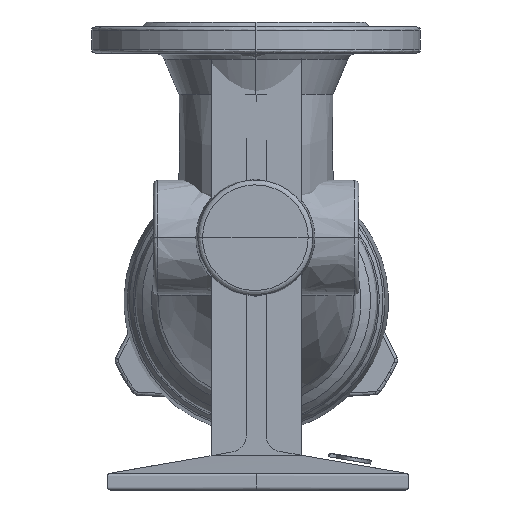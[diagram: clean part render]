
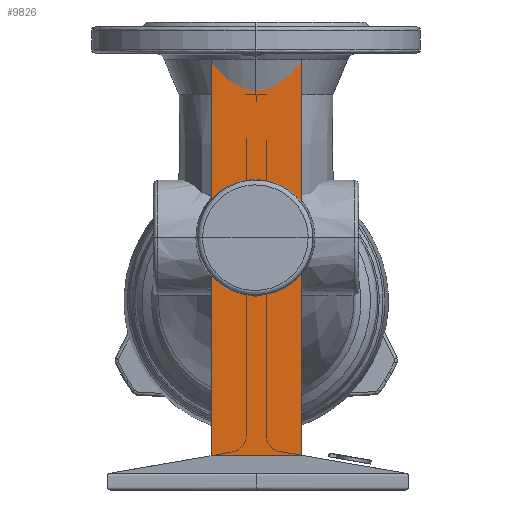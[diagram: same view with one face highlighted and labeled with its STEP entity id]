
A CAD part, left-side view. The second image highlights one B-rep face of the part: STEP entity #9826.
In plain terms, the highlighted free-form (B-spline) face has degree [1, 1] with [2, 2] control points.
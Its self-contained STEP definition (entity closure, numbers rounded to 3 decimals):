
#51 = CARTESIAN_POINT ( 'NONE',  ( -47.397, 5.579, 262.672 ) ) ;
#149 = CARTESIAN_POINT ( 'NONE',  ( -47.397, 5.704, 262.768 ) ) ;
#177 = CARTESIAN_POINT ( 'NONE',  ( -47.397, 0.616, 260.593 ) ) ;
#247 = CARTESIAN_POINT ( 'NONE',  ( -47.397, 4.547, 261.96 ) ) ;
#255 = EDGE_CURVE ( 'NONE', #18292, #8433, #14288, .T. ) ;
#560 = CARTESIAN_POINT ( 'NONE',  ( -47.397, 1.627, 260.747 ) ) ;
#603 = CARTESIAN_POINT ( 'NONE',  ( -47.397, 27.541, 20.832 ) ) ;
#679 = CARTESIAN_POINT ( 'NONE',  ( -47.397, -3.555, 261.557 ) ) ;
#718 = ORIENTED_EDGE ( 'NONE', *, *, #8840, .T. ) ;
#868 = CARTESIAN_POINT ( 'NONE',  ( -47.397, -4.874, 262.365 ) ) ;
#1062 = B_SPLINE_CURVE_WITH_KNOTS ( 'NONE', 3,
 ( #11325, #7590, #177, #4833, #560, #14630, #13588, #1898 ),
 .UNSPECIFIED., .F., .F.,
 ( 4, 2, 2, 4 ),
 ( -3.075, -1.537, -0.769, 0. ),
 .UNSPECIFIED. ) ;
#1437 = CARTESIAN_POINT ( 'NONE',  ( -47.397, 27.541, 20.832 ) ) ;
#1717 = VERTEX_POINT ( 'NONE', #9594 ) ;
#1898 = CARTESIAN_POINT ( 'NONE',  ( -47.397, 2.609, 261.025 ) ) ;
#1927 = CARTESIAN_POINT ( 'NONE',  ( -47.397, -2.699, 261.153 ) ) ;
#2022 = CARTESIAN_POINT ( 'NONE',  ( -47.397, -3.969, 261.784 ) ) ;
#2324 = CARTESIAN_POINT ( 'NONE',  ( -47.397, -27.418, 262.864 ) ) ;
#2511 = B_SPLINE_CURVE_WITH_KNOTS ( 'NONE', 1,
 ( #4136, #18578 ),
 .UNSPECIFIED., .F., .F.,
 ( 2, 2 ),
 ( 5.808, 36.36 ),
 .UNSPECIFIED. ) ;
#2774 = B_SPLINE_CURVE_WITH_KNOTS ( 'NONE', 3,
 ( #3736, #15238, #10774, #868, #16569, #12113, #17898, #6674, #2022, #679, #16666, #1927, #8007, #12488, #7910, #6485 ),
 .UNSPECIFIED., .F., .F.,
 ( 4, 2, 2, 2, 2, 2, 2, 4 ),
 ( -5.641, -4.936, -4.583, -4.231, -3.526, -2.82, -1.41, 0. ),
 .UNSPECIFIED. ) ;
#2822 = CARTESIAN_POINT ( 'NONE',  ( -47.397, 2.898, 261.126 ) ) ;
#2870 = EDGE_CURVE ( 'NONE', #8091, #16763, #15230, .T. ) ;
#3011 = CARTESIAN_POINT ( 'NONE',  ( -47.397, 4.945, 262.218 ) ) ;
#3736 = CARTESIAN_POINT ( 'NONE',  ( -47.397, -5.54, 262.864 ) ) ;
#4136 = CARTESIAN_POINT ( 'NONE',  ( -47.397, -27.418, 20.832 ) ) ;
#4149 = CARTESIAN_POINT ( 'NONE',  ( -47.397, 27.541, 262.864 ) ) ;
#4247 = CARTESIAN_POINT ( 'NONE',  ( -47.397, 5.326, 262.484 ) ) ;
#4260 = B_SPLINE_CURVE_WITH_KNOTS ( 'NONE', 1,
 ( #14232, #4149 ),
 .UNSPECIFIED., .F., .F.,
 ( 2, 2 ),
 ( -10.468, 0. ),
 .UNSPECIFIED. ) ;
#4375 = CARTESIAN_POINT ( 'NONE',  ( -47.397, 27.541, 262.864 ) ) ;
#4833 = CARTESIAN_POINT ( 'NONE',  ( -47.397, 1.377, 260.698 ) ) ;
#5098 = CARTESIAN_POINT ( 'NONE',  ( -47.397, 27.541, 20.832 ) ) ;
#5278 = CARTESIAN_POINT ( 'NONE',  ( -47.397, -27.418, 262.864 ) ) ;
#5364 = CARTESIAN_POINT ( 'NONE',  ( -47.397, -5.54, 262.864 ) ) ;
#5846 = CARTESIAN_POINT ( 'NONE',  ( -47.397, 5.824, 262.864 ) ) ;
#6274 = CARTESIAN_POINT ( 'NONE',  ( -47.397, 27.541, 20.832 ) ) ;
#6485 = CARTESIAN_POINT ( 'NONE',  ( -47.397, -0.41, 260.618 ) ) ;
#6674 = CARTESIAN_POINT ( 'NONE',  ( -47.397, -4.171, 261.903 ) ) ;
#6903 = VERTEX_POINT ( 'NONE', #12689 ) ;
#7144 = CARTESIAN_POINT ( 'NONE',  ( -47.397, 27.541, 262.864 ) ) ;
#7590 = CARTESIAN_POINT ( 'NONE',  ( -47.397, 0.101, 260.578 ) ) ;
#7910 = CARTESIAN_POINT ( 'NONE',  ( -47.397, -0.878, 260.655 ) ) ;
#8007 = CARTESIAN_POINT ( 'NONE',  ( -47.397, -2.256, 260.988 ) ) ;
#8091 = VERTEX_POINT ( 'NONE', #4375 ) ;
#8115 = ORIENTED_EDGE ( 'NONE', *, *, #2870, .T. ) ;
#8121 = FACE_OUTER_BOUND ( 'NONE', #15586, .T. ) ;
#8433 = VERTEX_POINT ( 'NONE', #8727 ) ;
#8684 = ORIENTED_EDGE ( 'NONE', *, *, #9196, .T. ) ;
#8708 = EDGE_CURVE ( 'NONE', #8433, #8091, #4260, .T. ) ;
#8727 = CARTESIAN_POINT ( 'NONE',  ( -47.397, 5.824, 262.864 ) ) ;
#8777 = ORIENTED_EDGE ( 'NONE', *, *, #255, .T. ) ;
#8811 = ORIENTED_EDGE ( 'NONE', *, *, #10860, .T. ) ;
#8840 = EDGE_CURVE ( 'NONE', #9182, #6903, #14003, .T. ) ;
#9182 = VERTEX_POINT ( 'NONE', #16057 ) ;
#9196 = EDGE_CURVE ( 'NONE', #1717, #18292, #1062, .T. ) ;
#9422 = ORIENTED_EDGE ( 'NONE', *, *, #11702, .F. ) ;
#9488 = CARTESIAN_POINT ( 'NONE',  ( -47.397, -27.418, 20.832 ) ) ;
#9564 = CARTESIAN_POINT ( 'NONE',  ( -47.397, -27.418, 20.832 ) ) ;
#9594 = CARTESIAN_POINT ( 'NONE',  ( -47.397, -0.41, 260.618 ) ) ;
#9826 = ADVANCED_FACE ( 'NONE', ( #8121 ), #10289, .T. ) ;
#10140 = CARTESIAN_POINT ( 'NONE',  ( -47.397, 3.185, 261.243 ) ) ;
#10289 = B_SPLINE_SURFACE_WITH_KNOTS ( 'NONE', 1, 1, ( 
 ( #603, #15065 ),
 ( #9564, #2324 ) ),
 .UNSPECIFIED., .F., .F., .F.,
 ( 2, 2 ),
 ( 2, 2 ),
 ( 0., 26.492 ),
 ( 5.808, 36.36 ),
 .UNSPECIFIED. ) ;
#10587 = ORIENTED_EDGE ( 'NONE', *, *, #11887, .T. ) ;
#10681 = VERTEX_POINT ( 'NONE', #15714 ) ;
#10774 = CARTESIAN_POINT ( 'NONE',  ( -47.397, -5.165, 262.573 ) ) ;
#10860 = EDGE_CURVE ( 'NONE', #6903, #1717, #2774, .T. ) ;
#11325 = CARTESIAN_POINT ( 'NONE',  ( -47.397, -0.41, 260.618 ) ) ;
#11330 = B_SPLINE_CURVE_WITH_KNOTS ( 'NONE', 1,
 ( #9488, #5098 ),
 .UNSPECIFIED., .F., .F.,
 ( 2, 2 ),
 ( -26.492, 0. ),
 .UNSPECIFIED. ) ;
#11702 = EDGE_CURVE ( 'NONE', #10681, #16763, #11330, .T. ) ;
#11887 = EDGE_CURVE ( 'NONE', #10681, #9182, #2511, .T. ) ;
#12113 = CARTESIAN_POINT ( 'NONE',  ( -47.397, -4.578, 262.163 ) ) ;
#12488 = CARTESIAN_POINT ( 'NONE',  ( -47.397, -1.344, 260.738 ) ) ;
#12689 = CARTESIAN_POINT ( 'NONE',  ( -47.397, -5.54, 262.864 ) ) ;
#13177 = CARTESIAN_POINT ( 'NONE',  ( -47.397, 4.416, 261.88 ) ) ;
#13267 = CARTESIAN_POINT ( 'NONE',  ( -47.397, 3.744, 261.504 ) ) ;
#13588 = CARTESIAN_POINT ( 'NONE',  ( -47.397, 2.367, 260.941 ) ) ;
#14003 = B_SPLINE_CURVE_WITH_KNOTS ( 'NONE', 1,
 ( #5278, #5364 ),
 .UNSPECIFIED., .F., .F.,
 ( 2, 2 ),
 ( -26.492, -15.946 ),
 .UNSPECIFIED. ) ;
#14232 = CARTESIAN_POINT ( 'NONE',  ( -47.397, 5.824, 262.864 ) ) ;
#14288 = B_SPLINE_CURVE_WITH_KNOTS ( 'NONE', 3,
 ( #15569, #2822, #10140, #13267, #17269, #13177, #247, #14697, #3011, #16130, #4247, #51, #149, #5846 ),
 .UNSPECIFIED., .F., .F.,
 ( 4, 2, 2, 2, 2, 2, 4 ),
 ( 0., 0.919, 1.838, 2.297, 2.757, 3.216, 3.676 ),
 .UNSPECIFIED. ) ;
#14630 = CARTESIAN_POINT ( 'NONE',  ( -47.397, 2.124, 260.868 ) ) ;
#14697 = CARTESIAN_POINT ( 'NONE',  ( -47.397, 4.813, 262.13 ) ) ;
#15065 = CARTESIAN_POINT ( 'NONE',  ( -47.397, 27.541, 262.864 ) ) ;
#15230 = B_SPLINE_CURVE_WITH_KNOTS ( 'NONE', 1,
 ( #7144, #1437 ),
 .UNSPECIFIED., .F., .F.,
 ( 2, 2 ),
 ( -36.36, -5.808 ),
 .UNSPECIFIED. ) ;
#15238 = CARTESIAN_POINT ( 'NONE',  ( -47.397, -5.356, 262.718 ) ) ;
#15323 = CARTESIAN_POINT ( 'NONE',  ( -47.397, 2.609, 261.025 ) ) ;
#15569 = CARTESIAN_POINT ( 'NONE',  ( -47.397, 2.609, 261.025 ) ) ;
#15586 = EDGE_LOOP ( 'NONE', ( #8811, #8684, #8777, #16948, #8115, #9422, #10587, #718 ) ) ;
#15714 = CARTESIAN_POINT ( 'NONE',  ( -47.397, -27.418, 20.832 ) ) ;
#16057 = CARTESIAN_POINT ( 'NONE',  ( -47.397, -27.418, 262.864 ) ) ;
#16130 = CARTESIAN_POINT ( 'NONE',  ( -47.397, 5.199, 262.393 ) ) ;
#16569 = CARTESIAN_POINT ( 'NONE',  ( -47.397, -4.778, 262.298 ) ) ;
#16666 = CARTESIAN_POINT ( 'NONE',  ( -47.397, -3.344, 261.45 ) ) ;
#16763 = VERTEX_POINT ( 'NONE', #6274 ) ;
#16948 = ORIENTED_EDGE ( 'NONE', *, *, #8708, .T. ) ;
#17269 = CARTESIAN_POINT ( 'NONE',  ( -47.397, 4.015, 261.647 ) ) ;
#17898 = CARTESIAN_POINT ( 'NONE',  ( -47.397, -4.476, 262.096 ) ) ;
#18292 = VERTEX_POINT ( 'NONE', #15323 ) ;
#18578 = CARTESIAN_POINT ( 'NONE',  ( -47.397, -27.418, 262.864 ) ) ;
